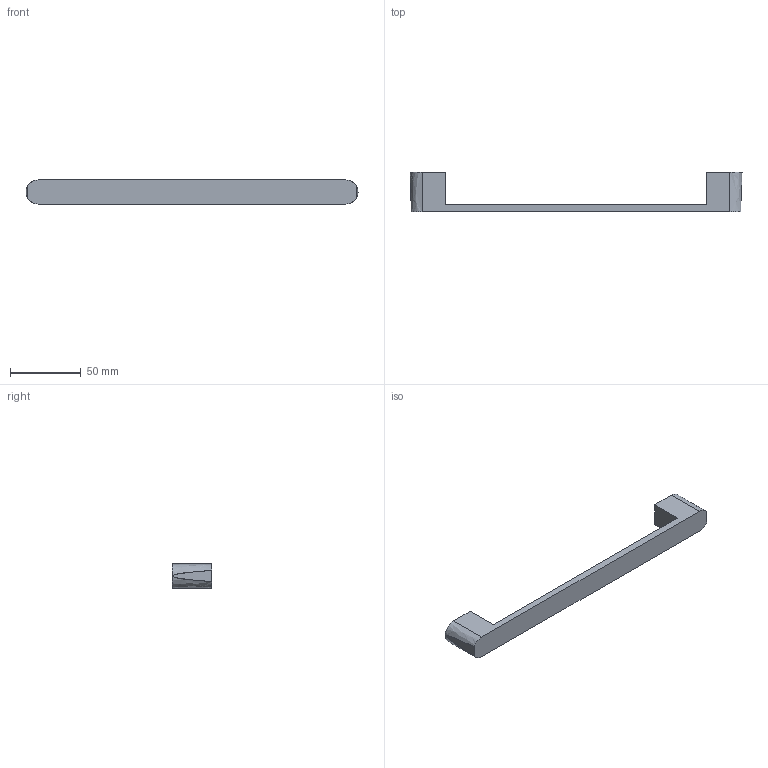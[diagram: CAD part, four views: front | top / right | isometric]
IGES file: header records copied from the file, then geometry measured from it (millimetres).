
Start section: Data from Parasolid IGES Translator 15.0.47, Copyright(c) 2006 Siemens P LM Software. All Rights Reserved.
Global section: file name: 9113488.igs; native system:  By UGS Corp.; preprocessor: XPlus GENERIC/IGES 3.0; author: Noname; organization: Noname; date: 20140122.170258; units: millimetre
Bounding box: 234 x 28 x 17 mm (x, y, z)
Surface area: 14031.3 mm2 (no closed solid volume)
Topology: 0 solids, 0 shells, 18 faces, 80 edges, 78 vertices
Faces by surface type: extrusion 12, revolution 6
